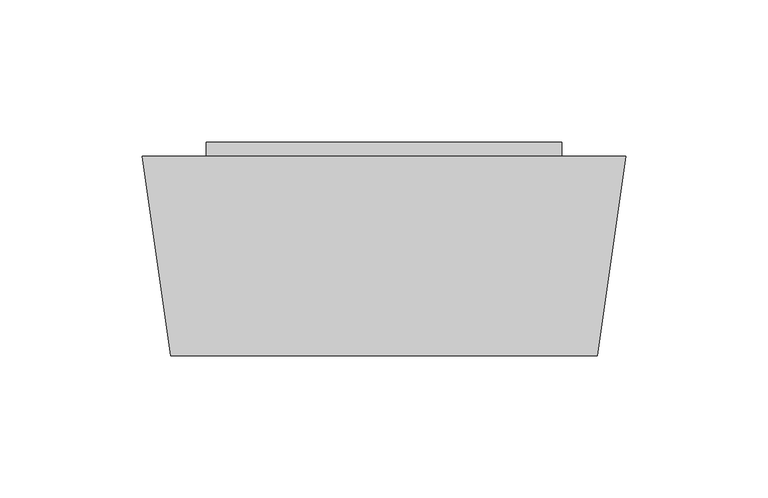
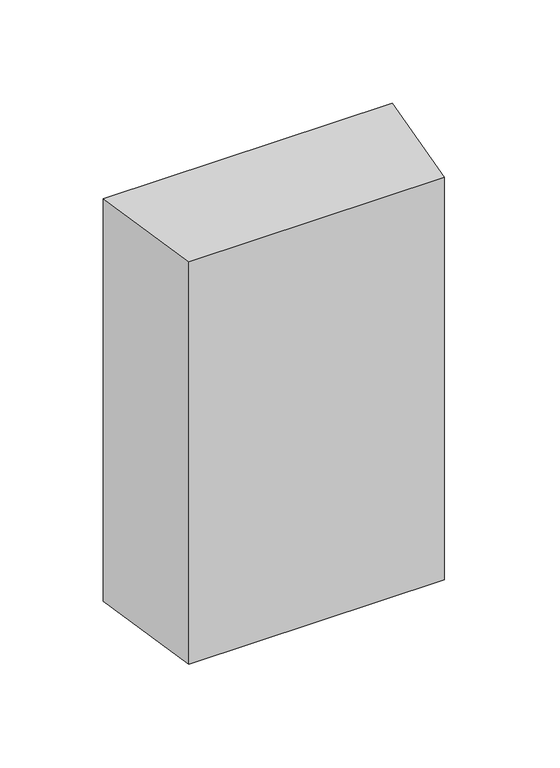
"""IFC4 building model written with IfcOpenShell, lengths in millimetres: switching device geometry, ZYR_06.01 Detector Presència Paret : Detector 90º."""

from ifc_helpers import new_model, si_unit, frame, origin, place, context, project, spatial, polyline, outline, extrude, source, transform, mapped, element, save


def switching_device_57a559c2(model_context):
    return source(origin(), model_context, "Body", "SweptSolid", [
        extrude(outline(polyline([(75.0, 0.0), (-75.0, 0.0), (-84.9975, 70.0), (84.9975, 70.0), (75.0, 0.0)])), frame((0.0, 0.0, -125.0), z_axis=(0.0, 0.0, 1.0), x_axis=(1.0, 0.0, 0.0)), (0.0, 0.0, 1.0), 250.0),
        extrude(outline(polyline([(62.4981618, 75.0), (62.4981618, 70.0), (-62.4981618, 70.0), (-62.4981618, 75.0), (62.4981618, 75.0)])), frame((0.0, 0.0, -125.0), z_axis=(0.0, 0.0, 1.0), x_axis=(1.0, 0.0, 0.0)), (0.0, 0.0, 1.0), 125.0),
    ])


if __name__ == "__main__":
    model = new_model("IFC4")
    model_context = context("Model", 3, world=origin())
    ifc_project = project(units=[si_unit("LENGTHUNIT", "METRE", prefix="MILLI")], contexts=[model_context])
    site = spatial("IfcSite", under=ifc_project)
    building = spatial("IfcBuilding", under=site)
    placement = place(None, origin())
    switching_device_shape = switching_device_57a559c2(model_context)
    element("IfcSwitchingDevice", 1, ObjectType="ZYR_06.01 Detector Presència Paret : Detector 90º", at=placement, inside=building, context=model_context, shape_type="MappedRepresentation", body=[
        mapped(switching_device_shape, transform((0.0, 0.0, 0.0), x_axis=(1.0, 0.0, 0.0), y_axis=(0.0, 1.0, 0.0), z_axis=(0.0, 0.0, 1.0))),
    ])
    save(model, "model.ifc")
